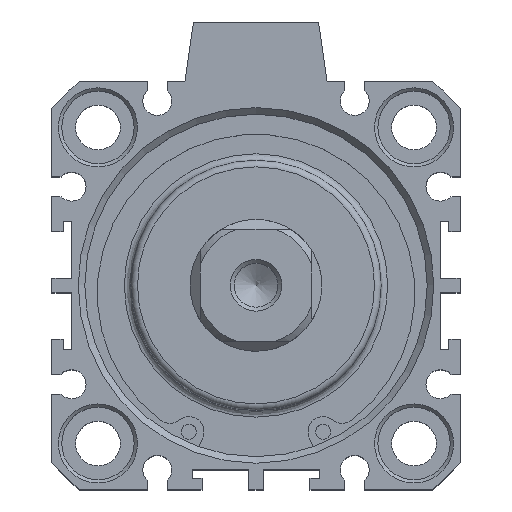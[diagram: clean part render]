
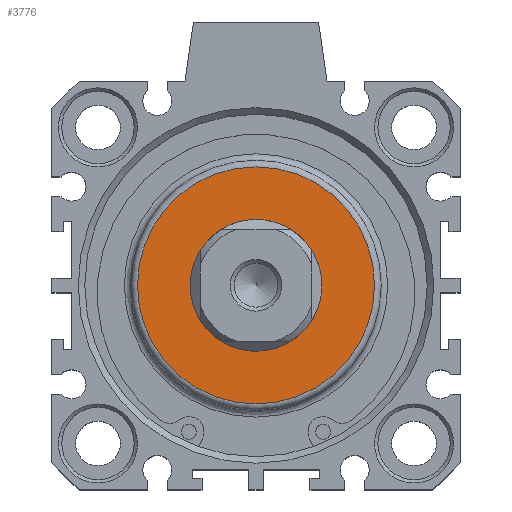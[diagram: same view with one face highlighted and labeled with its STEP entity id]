
A CAD part, top view. The second image highlights one B-rep face of the part: STEP entity #3776.
In plain terms, the highlighted planar face has unit normal (0, 0, 1).
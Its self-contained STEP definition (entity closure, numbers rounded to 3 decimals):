
#3276=CARTESIAN_POINT('',(-7.057,11.794,42.5));
#3277=VERTEX_POINT('',#3276);
#3278=CARTESIAN_POINT('',(-7.057,1.794,42.5));
#3279=DIRECTION('',(0.0,0.0,-1.0));
#3280=DIRECTION('',(0.0,1.0,0.0));
#3281=AXIS2_PLACEMENT_3D('',#3278,#3279,#3280);
#3282=CIRCLE('',#3281,10.0);
#3283=EDGE_CURVE('',#3277,#3277,#3282,.T.);
#3750=CARTESIAN_POINT('',(-7.057,19.794,42.5));
#3751=VERTEX_POINT('',#3750);
#3752=CARTESIAN_POINT('',(-7.057,1.794,42.5));
#3753=DIRECTION('',(0.0,0.0,-1.0));
#3754=DIRECTION('',(0.0,-1.0,0.0));
#3755=AXIS2_PLACEMENT_3D('',#3752,#3753,#3754);
#3756=CIRCLE('',#3755,18.0);
#3757=EDGE_CURVE('',#3751,#3751,#3756,.T.);
#3765=CARTESIAN_POINT('',(-7.057,11.294,42.5));
#3766=DIRECTION('',(0.0,0.0,1.0));
#3767=DIRECTION('',(1.0,0.0,0.0));
#3768=AXIS2_PLACEMENT_3D('',#3765,#3766,#3767);
#3769=PLANE('',#3768);
#3770=ORIENTED_EDGE('',*,*,#3757,.F.);
#3771=EDGE_LOOP('',(#3770));
#3772=FACE_OUTER_BOUND('',#3771,.T.);
#3773=ORIENTED_EDGE('',*,*,#3283,.T.);
#3774=EDGE_LOOP('',(#3773));
#3775=FACE_BOUND('',#3774,.T.);
#3776=ADVANCED_FACE('',(#3772,#3775),#3769,.T.);
